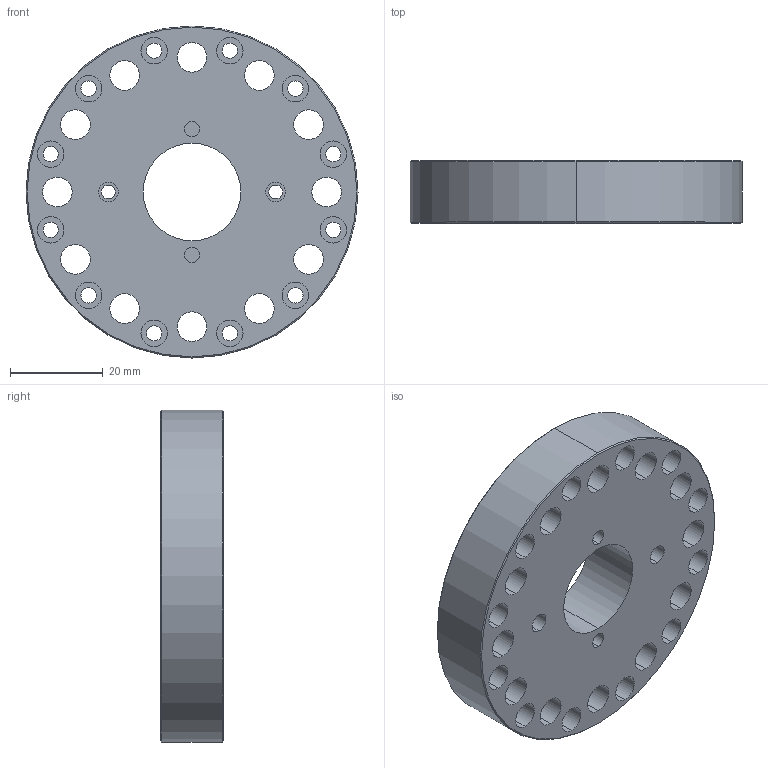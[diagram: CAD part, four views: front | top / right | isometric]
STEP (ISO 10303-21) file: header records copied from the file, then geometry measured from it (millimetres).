
FILE_DESCRIPTION (( 'STEP AP203' ), '1' );
FILE_NAME ('Backplate R06 native features.step', '2026-11-24T02:13:52', ( '' ), ( '' ), 'SwSTEP 2.0', 'SolidWorks 2021', '' );
FILE_SCHEMA (( 'CONFIG_CONTROL_DESIGN' ));
Length unit declared in the file: millimetre
Products named in the file (1): Backplate R06 native features
Bounding box: 71.5 x 13.5 x 71.5 mm (x, y, z)
Volume: 40774.2 mm3; surface area: 16600.6 mm2
Topology: 1 solids, 1 shells, 122 faces, 296 edges, 196 vertices
Faces by surface type: cylinder 96, plane 22, cone 4
Entity records: 3869 total; most frequent: DIRECTION 738, CARTESIAN_POINT 615, ORIENTED_EDGE 592, AXIS2_PLACEMENT_3D 319, EDGE_CURVE 296, VERTEX_POINT 196, CIRCLE 196, EDGE_LOOP 196
